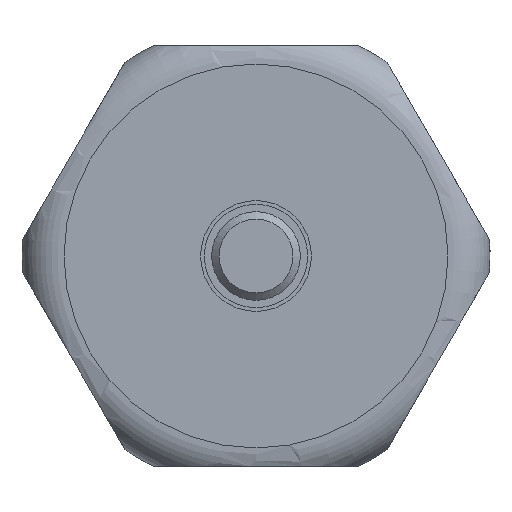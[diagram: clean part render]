
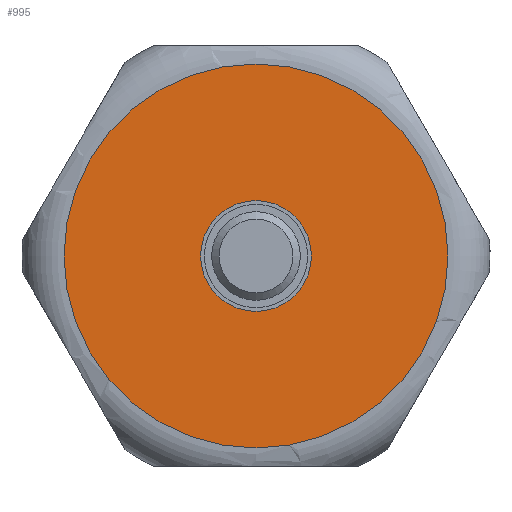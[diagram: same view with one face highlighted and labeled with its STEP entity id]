
A CAD part, left-side view. The second image highlights one B-rep face of the part: STEP entity #995.
In plain terms, the highlighted planar face has unit normal (-1, 0, 0).
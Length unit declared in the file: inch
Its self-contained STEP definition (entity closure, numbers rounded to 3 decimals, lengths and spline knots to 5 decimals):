
#38=FACE_BOUND('',#243,.T.);
#184=FACE_OUTER_BOUND('',#242,.T.);
#242=EDGE_LOOP('',(#775,#776));
#243=EDGE_LOOP('',(#777,#778));
#292=CIRCLE('',#1081,0.14764);
#293=CIRCLE('',#1082,0.14764);
#319=CIRCLE('',#1126,0.51181);
#320=CIRCLE('',#1127,0.51181);
#383=VERTEX_POINT('',#1588);
#384=VERTEX_POINT('',#1589);
#423=VERTEX_POINT('',#1849);
#424=VERTEX_POINT('',#1850);
#493=EDGE_CURVE('',#383,#384,#292,.T.);
#494=EDGE_CURVE('',#384,#383,#293,.T.);
#550=EDGE_CURVE('',#423,#424,#319,.T.);
#551=EDGE_CURVE('',#424,#423,#320,.T.);
#775=ORIENTED_EDGE('',*,*,#550,.F.);
#776=ORIENTED_EDGE('',*,*,#551,.F.);
#777=ORIENTED_EDGE('',*,*,#493,.T.);
#778=ORIENTED_EDGE('',*,*,#494,.T.);
#904=PLANE('',#1125);
#995=ADVANCED_FACE('',(#184,#38),#904,.T.);
#1081=AXIS2_PLACEMENT_3D('',#1590,#1278,#1279);
#1082=AXIS2_PLACEMENT_3D('',#1591,#1280,#1281);
#1125=AXIS2_PLACEMENT_3D('',#1848,#1382,#1383);
#1126=AXIS2_PLACEMENT_3D('',#1851,#1384,#1385);
#1127=AXIS2_PLACEMENT_3D('',#1852,#1386,#1387);
#1278=DIRECTION('center_axis',(1.,0.,0.));
#1279=DIRECTION('ref_axis',(0.,-0.866,0.5));
#1280=DIRECTION('center_axis',(1.,0.,0.));
#1281=DIRECTION('ref_axis',(0.,-0.866,0.5));
#1382=DIRECTION('center_axis',(-1.,0.,0.));
#1383=DIRECTION('ref_axis',(0.,-0.866,0.5));
#1384=DIRECTION('center_axis',(1.,0.,0.));
#1385=DIRECTION('ref_axis',(0.,0.866,-0.5));
#1386=DIRECTION('center_axis',(1.,0.,0.));
#1387=DIRECTION('ref_axis',(0.,0.866,-0.5));
#1588=CARTESIAN_POINT('',(-2.66747,-0.02656,-0.27052));
#1589=CARTESIAN_POINT('',(-2.66747,0.22916,-0.41816));
#1590=CARTESIAN_POINT('Origin',(-2.66747,0.1013,-0.34434));
#1591=CARTESIAN_POINT('Origin',(-2.66747,0.1013,-0.34434));
#1848=CARTESIAN_POINT('Origin',(-2.66747,0.54454,-0.60025));
#1849=CARTESIAN_POINT('',(-2.66747,0.54454,-0.60025));
#1850=CARTESIAN_POINT('',(-2.66747,-0.34194,-0.08844));
#1851=CARTESIAN_POINT('Origin',(-2.66747,0.1013,-0.34434));
#1852=CARTESIAN_POINT('Origin',(-2.66747,0.1013,-0.34434));
